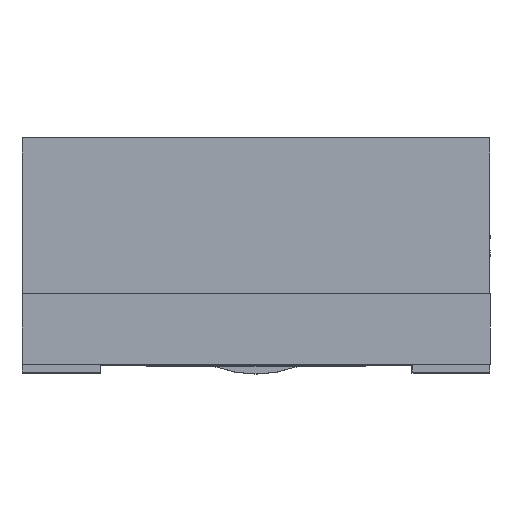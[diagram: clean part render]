
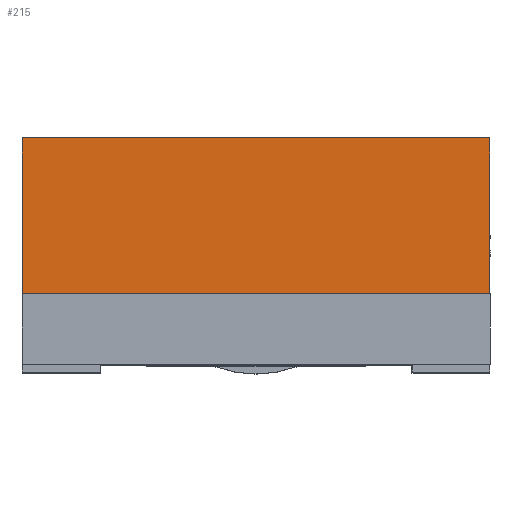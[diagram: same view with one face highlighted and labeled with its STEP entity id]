
A CAD part, top view. The second image highlights one B-rep face of the part: STEP entity #215.
In plain terms, the highlighted planar face has unit normal (0, 0, 1).
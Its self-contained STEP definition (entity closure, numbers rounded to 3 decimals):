
#104 = FACE_OUTER_BOUND ( 'NONE', #9919, .T. ) ;
#215 = ADVANCED_FACE ( 'NONE', ( #104 ), #3798, .F. ) ;
#335 = DIRECTION ( 'NONE',  ( 1., 0., 0. ) ) ;
#857 = ORIENTED_EDGE ( 'NONE', *, *, #6018, .F. ) ;
#870 = LINE ( 'NONE', #1203, #10328 ) ;
#1104 = CARTESIAN_POINT ( 'NONE',  ( 61.853, 20., 148.964 ) ) ;
#1203 = CARTESIAN_POINT ( 'NONE',  ( 61.853, 20., 148.964 ) ) ;
#2373 = LINE ( 'NONE', #6137, #4898 ) ;
#2699 = VERTEX_POINT ( 'NONE', #6251 ) ;
#3556 = DIRECTION ( 'NONE',  ( 0., 0., -1. ) ) ;
#3645 = ORIENTED_EDGE ( 'NONE', *, *, #9601, .T. ) ;
#3798 = PLANE ( 'NONE',  #10453 ) ;
#4456 = CARTESIAN_POINT ( 'NONE',  ( 61.853, 20., 148.964 ) ) ;
#4518 = LINE ( 'NONE', #7269, #7101 ) ;
#4898 = VECTOR ( 'NONE', #11435, 1000. ) ;
#5135 = DIRECTION ( 'NONE',  ( 0., -1., 0. ) ) ;
#5412 = DIRECTION ( 'NONE',  ( -1., 0., 0. ) ) ;
#5647 = VECTOR ( 'NONE', #5135, 1000. ) ;
#6018 = EDGE_CURVE ( 'NONE', #2699, #7153, #7943, .T. ) ;
#6137 = CARTESIAN_POINT ( 'NONE',  ( 61.853, 20., 148.964 ) ) ;
#6251 = CARTESIAN_POINT ( 'NONE',  ( 121.853, 20., 148.964 ) ) ;
#6362 = DIRECTION ( 'NONE',  ( 1., 0., 0. ) ) ;
#7101 = VECTOR ( 'NONE', #335, 1000. ) ;
#7153 = VERTEX_POINT ( 'NONE', #7527 ) ;
#7269 = CARTESIAN_POINT ( 'NONE',  ( 61.853, 0., 148.964 ) ) ;
#7527 = CARTESIAN_POINT ( 'NONE',  ( 121.853, 0., 148.964 ) ) ;
#7943 = LINE ( 'NONE', #9788, #5647 ) ;
#8463 = VERTEX_POINT ( 'NONE', #1104 ) ;
#8481 = ORIENTED_EDGE ( 'NONE', *, *, #9747, .T. ) ;
#9498 = CARTESIAN_POINT ( 'NONE',  ( 61.853, 0., 148.964 ) ) ;
#9601 = EDGE_CURVE ( 'NONE', #8463, #10170, #2373, .T. ) ;
#9747 = EDGE_CURVE ( 'NONE', #10170, #7153, #4518, .T. ) ;
#9788 = CARTESIAN_POINT ( 'NONE',  ( 121.853, 20., 148.964 ) ) ;
#9919 = EDGE_LOOP ( 'NONE', ( #8481, #857, #11192, #3645 ) ) ;
#10073 = EDGE_CURVE ( 'NONE', #8463, #2699, #870, .T. ) ;
#10170 = VERTEX_POINT ( 'NONE', #9498 ) ;
#10328 = VECTOR ( 'NONE', #6362, 1000. ) ;
#10453 = AXIS2_PLACEMENT_3D ( 'NONE', #4456, #3556, #5412 ) ;
#11192 = ORIENTED_EDGE ( 'NONE', *, *, #10073, .F. ) ;
#11435 = DIRECTION ( 'NONE',  ( 0., -1., 0. ) ) ;
